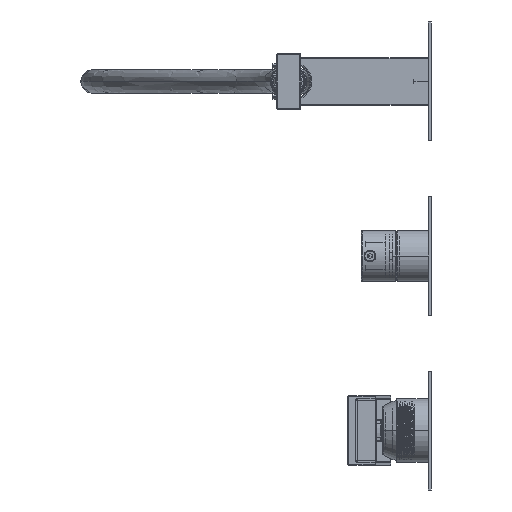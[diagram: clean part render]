
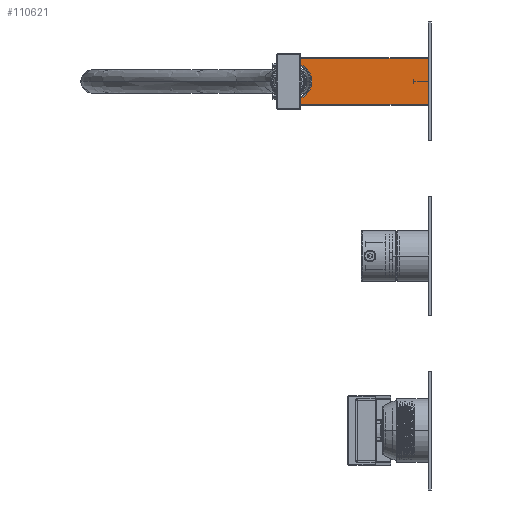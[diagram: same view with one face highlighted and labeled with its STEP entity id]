
A CAD part, left-side view. The second image highlights one B-rep face of the part: STEP entity #110621.
In plain terms, the highlighted planar face has unit normal (-1, 0, 0).
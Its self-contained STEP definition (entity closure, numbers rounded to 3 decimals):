
#94775=CARTESIAN_POINT('',(-11.,165.,110.));
#94776=DIRECTION('',(1.,0.,0.));
#94777=DIRECTION('',(0.,-0.052,-0.999));
#94778=AXIS2_PLACEMENT_3D('',#94775,#94776,#94777);
#94780=CARTESIAN_POINT('',(-11.,162.,110.));
#94781=DIRECTION('',(1.,0.,0.));
#94782=DIRECTION('',(0.,0.207,0.978));
#94783=AXIS2_PLACEMENT_3D('',#94780,#94781,#94782);
#94785=CARTESIAN_POINT('',(-11.,165.,110.));
#94786=DIRECTION('',(1.,0.,0.));
#94787=DIRECTION('',(0.,0.009,1.));
#94788=AXIS2_PLACEMENT_3D('',#94785,#94786,#94787);
#94790=DIRECTION('',(0.,0.,-1.));
#94791=VECTOR('',#94790,3.13);
#94792=CARTESIAN_POINT('',(-11.,165.1,124.5));
#94793=LINE('',#94792,#94791);
#94794=DIRECTION('',(0.,-1.,0.));
#94795=VECTOR('',#94794,88.1);
#94796=CARTESIAN_POINT('',(-11.,165.1,124.5));
#94797=LINE('',#94796,#94795);
#94798=DIRECTION('',(0.,0.,1.));
#94799=VECTOR('',#94798,29.);
#94800=CARTESIAN_POINT('',(-11.,77.,95.5));
#94801=LINE('',#94800,#94799);
#94802=DIRECTION('',(0.,1.,0.));
#94803=VECTOR('',#94802,88.109);
#94804=CARTESIAN_POINT('',(-11.,77.,95.5));
#94805=LINE('',#94804,#94803);
#94806=DIRECTION('',(0.,0.,-1.));
#94807=VECTOR('',#94806,3.131);
#94808=CARTESIAN_POINT('',(-11.,165.109,98.631));
#94809=LINE('',#94808,#94807);
#106255=CARTESIAN_POINT('',(-11.,165.109,95.5));
#106257=VERTEX_POINT('',#106255);
#106289=CARTESIAN_POINT('',(-11.,165.1,124.5));
#106290=VERTEX_POINT('',#106289);
#106341=CARTESIAN_POINT('',(-11.,77.,95.5));
#106342=CARTESIAN_POINT('',(-11.,77.,124.5));
#106343=VERTEX_POINT('',#106341);
#106344=VERTEX_POINT('',#106342);
#106580=CARTESIAN_POINT('',(-11.,164.404,98.646));
#106581=CARTESIAN_POINT('',(-11.,165.109,98.631));
#106582=VERTEX_POINT('',#106580);
#106583=VERTEX_POINT('',#106581);
#106584=CARTESIAN_POINT('',(-11.,165.1,121.37));
#106585=CARTESIAN_POINT('',(-11.,164.404,121.354));
#106586=VERTEX_POINT('',#106584);
#106587=VERTEX_POINT('',#106585);
#110601=CARTESIAN_POINT('',(-11.,77.,125.));
#110602=DIRECTION('',(1.,0.,0.));
#110603=DIRECTION('',(0.,1.,0.));
#110604=AXIS2_PLACEMENT_3D('',#110601,#110602,#110603);
#110605=PLANE('',#110604);
#110606=ORIENTED_EDGE('',*,*,#110571,.F.);
#110607=ORIENTED_EDGE('',*,*,#110596,.F.);
#110608=ORIENTED_EDGE('',*,*,#110533,.F.);
#110610=ORIENTED_EDGE('',*,*,#110609,.F.);
#110612=ORIENTED_EDGE('',*,*,#110611,.T.);
#110614=ORIENTED_EDGE('',*,*,#110613,.F.);
#110616=ORIENTED_EDGE('',*,*,#110615,.T.);
#110618=ORIENTED_EDGE('',*,*,#110617,.F.);
#110619=EDGE_LOOP('',(#110606,#110607,#110608,#110610,#110612,#110614,#110616,
#110618));
#110620=FACE_OUTER_BOUND('',#110619,.F.);
#110621=ADVANCED_FACE('',(#110620),#110605,.F.);
#94779=CIRCLE('',#94778,11.37);
#94784=CIRCLE('',#94783,11.606);
#94789=CIRCLE('',#94788,11.37);
#110533=EDGE_CURVE('',#106586,#106587,#94789,.T.);
#110571=EDGE_CURVE('',#106582,#106583,#94779,.T.);
#110596=EDGE_CURVE('',#106587,#106582,#94784,.T.);
#110609=EDGE_CURVE('',#106290,#106586,#94793,.T.);
#110611=EDGE_CURVE('',#106290,#106344,#94797,.T.);
#110613=EDGE_CURVE('',#106343,#106344,#94801,.T.);
#110615=EDGE_CURVE('',#106343,#106257,#94805,.T.);
#110617=EDGE_CURVE('',#106583,#106257,#94809,.T.);
